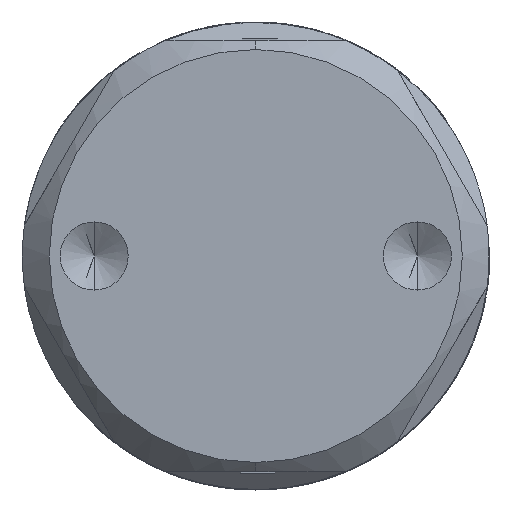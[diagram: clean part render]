
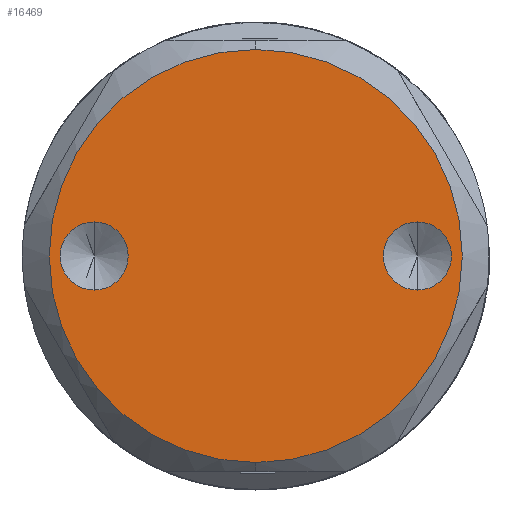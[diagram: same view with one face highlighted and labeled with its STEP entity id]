
A CAD part, front view. The second image highlights one B-rep face of the part: STEP entity #16469.
In plain terms, the highlighted planar face has unit normal (0, -1, 0).
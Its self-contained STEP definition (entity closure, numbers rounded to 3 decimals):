
#94 = DIRECTION ( 'NONE',  ( 0., -1., 0. ) ) ;
#303 = ORIENTED_EDGE ( 'NONE', *, *, #16978, .T. ) ;
#1011 = EDGE_CURVE ( 'NONE', #10255, #5549, #3167, .T. ) ;
#1627 = DIRECTION ( 'NONE',  ( 0., 1., 0. ) ) ;
#1664 = AXIS2_PLACEMENT_3D ( 'NONE', #4298, #1627, #34971 ) ;
#2617 = CARTESIAN_POINT ( 'NONE',  ( 0., 0., 0. ) ) ;
#2978 = ORIENTED_EDGE ( 'NONE', *, *, #5475, .T. ) ;
#3167 = CIRCLE ( 'NONE', #15362, 1.899 ) ;
#3970 = EDGE_CURVE ( 'NONE', #31321, #34907, #17175, .T. ) ;
#4264 = CARTESIAN_POINT ( 'NONE',  ( -9., 0., 1.899 ) ) ;
#4298 = CARTESIAN_POINT ( 'NONE',  ( 13., 0., 0. ) ) ;
#4372 = VERTEX_POINT ( 'NONE', #23713 ) ;
#4512 = CIRCLE ( 'NONE', #16133, 1.899 ) ;
#5160 = DIRECTION ( 'NONE',  ( 0., 0., 1. ) ) ;
#5475 = EDGE_CURVE ( 'NONE', #18135, #4372, #21851, .T. ) ;
#5549 = VERTEX_POINT ( 'NONE', #29881 ) ;
#5934 = AXIS2_PLACEMENT_3D ( 'NONE', #2617, #24380, #5160 ) ;
#7077 = EDGE_CURVE ( 'NONE', #34907, #31321, #4512, .T. ) ;
#7287 = ORIENTED_EDGE ( 'NONE', *, *, #3970, .F. ) ;
#7494 = DIRECTION ( 'NONE',  ( 0., 0., -1. ) ) ;
#7594 = ORIENTED_EDGE ( 'NONE', *, *, #12015, .F. ) ;
#7853 = CIRCLE ( 'NONE', #26134, 1.899 ) ;
#7937 = EDGE_LOOP ( 'NONE', ( #21996, #7594 ) ) ;
#8095 = DIRECTION ( 'NONE',  ( 0., -1., 0. ) ) ;
#10255 = VERTEX_POINT ( 'NONE', #32803 ) ;
#11022 = FACE_BOUND ( 'NONE', #26622, .T. ) ;
#11266 = DIRECTION ( 'NONE',  ( 0., 0., -1. ) ) ;
#12015 = EDGE_CURVE ( 'NONE', #5549, #10255, #7853, .T. ) ;
#15023 = CARTESIAN_POINT ( 'NONE',  ( 9., 0., 0. ) ) ;
#15362 = AXIS2_PLACEMENT_3D ( 'NONE', #22343, #24644, #27410 ) ;
#16133 = AXIS2_PLACEMENT_3D ( 'NONE', #29347, #8095, #7494 ) ;
#16469 = ADVANCED_FACE ( 'NONE', ( #28708, #11022, #16757 ), #20616, .F. ) ;
#16757 = FACE_OUTER_BOUND ( 'NONE', #30601, .T. ) ;
#16810 = CARTESIAN_POINT ( 'NONE',  ( -9., 0., -1.899 ) ) ;
#16978 = EDGE_CURVE ( 'NONE', #4372, #18135, #17223, .T. ) ;
#17009 = ORIENTED_EDGE ( 'NONE', *, *, #7077, .F. ) ;
#17175 = CIRCLE ( 'NONE', #26037, 1.899 ) ;
#17223 = CIRCLE ( 'NONE', #30791, 11.5 ) ;
#18135 = VERTEX_POINT ( 'NONE', #35512 ) ;
#18609 = CARTESIAN_POINT ( 'NONE',  ( 0., 0., 0. ) ) ;
#20321 = DIRECTION ( 'NONE',  ( 0., -1., 0. ) ) ;
#20616 = PLANE ( 'NONE',  #1664 ) ;
#21851 = CIRCLE ( 'NONE', #5934, 11.5 ) ;
#21860 = DIRECTION ( 'NONE',  ( 0., -1., 0. ) ) ;
#21996 = ORIENTED_EDGE ( 'NONE', *, *, #1011, .F. ) ;
#22343 = CARTESIAN_POINT ( 'NONE',  ( 9., 0., 0. ) ) ;
#23713 = CARTESIAN_POINT ( 'NONE',  ( 0., 0., 11.5 ) ) ;
#24380 = DIRECTION ( 'NONE',  ( 0., -1., 0. ) ) ;
#24644 = DIRECTION ( 'NONE',  ( 0., -1., 0. ) ) ;
#24765 = CARTESIAN_POINT ( 'NONE',  ( -9., 0., 0. ) ) ;
#26037 = AXIS2_PLACEMENT_3D ( 'NONE', #24765, #94, #11266 ) ;
#26121 = DIRECTION ( 'NONE',  ( 0., 0., -1. ) ) ;
#26134 = AXIS2_PLACEMENT_3D ( 'NONE', #15023, #20321, #26121 ) ;
#26622 = EDGE_LOOP ( 'NONE', ( #17009, #7287 ) ) ;
#27410 = DIRECTION ( 'NONE',  ( 0., 0., -1. ) ) ;
#28708 = FACE_BOUND ( 'NONE', #7937, .T. ) ;
#29347 = CARTESIAN_POINT ( 'NONE',  ( -9., 0., 0. ) ) ;
#29881 = CARTESIAN_POINT ( 'NONE',  ( 9., 0., 1.899 ) ) ;
#30601 = EDGE_LOOP ( 'NONE', ( #303, #2978 ) ) ;
#30791 = AXIS2_PLACEMENT_3D ( 'NONE', #18609, #21860, #32602 ) ;
#31321 = VERTEX_POINT ( 'NONE', #4264 ) ;
#32602 = DIRECTION ( 'NONE',  ( 0., 0., 1. ) ) ;
#32803 = CARTESIAN_POINT ( 'NONE',  ( 9., 0., -1.899 ) ) ;
#34907 = VERTEX_POINT ( 'NONE', #16810 ) ;
#34971 = DIRECTION ( 'NONE',  ( 0., 0., 1. ) ) ;
#35512 = CARTESIAN_POINT ( 'NONE',  ( 0., 0., -11.5 ) ) ;
